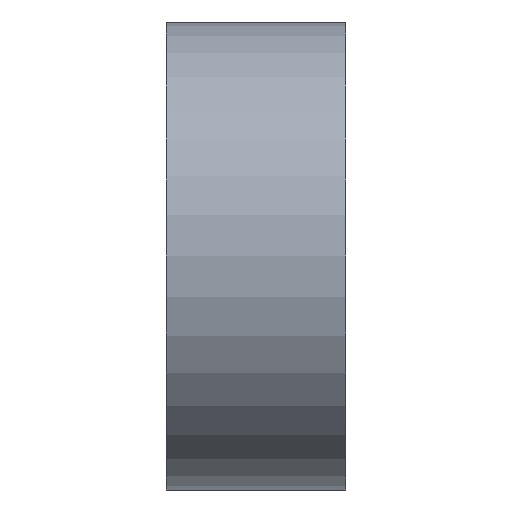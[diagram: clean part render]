
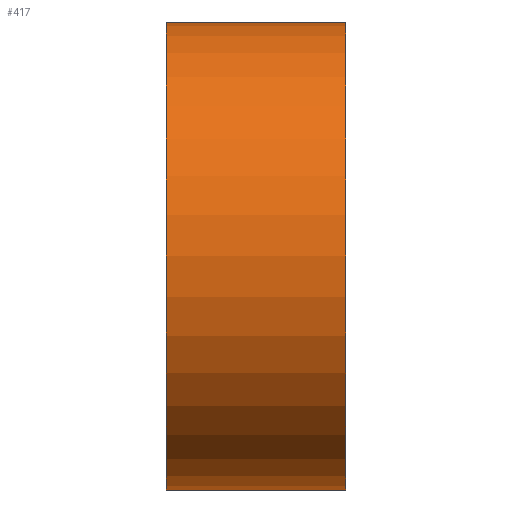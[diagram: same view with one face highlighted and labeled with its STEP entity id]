
A CAD part, left-side view. The second image highlights one B-rep face of the part: STEP entity #417.
In plain terms, the highlighted cylindrical face has radius 11.43 mm (diameter 22.86 mm), a partial arc.
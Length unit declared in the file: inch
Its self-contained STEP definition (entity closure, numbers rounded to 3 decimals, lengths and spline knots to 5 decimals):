
#3 = EDGE_CURVE ( 'NONE', #361, #332, #316, .T. ) ;
#10 = EDGE_CURVE ( 'NONE', #322, #333, #339, .T. ) ;
#14 = AXIS2_PLACEMENT_3D ( 'NONE', #111, #108, #92 ) ;
#19 = AXIS2_PLACEMENT_3D ( 'NONE', #102, #105, #106 ) ;
#25 = EDGE_CURVE ( 'NONE', #333, #332, #368, .T. ) ;
#31 = AXIS2_PLACEMENT_3D ( 'NONE', #176, #155, #156 ) ;
#42 = EDGE_CURVE ( 'NONE', #322, #361, #355, .T. ) ;
#77 = DIRECTION ( 'NONE',  ( 0., -1., 0. ) ) ;
#90 = CARTESIAN_POINT ( 'NONE',  ( 0., 0.345, 0.45 ) ) ;
#92 = DIRECTION ( 'NONE',  ( 0., 0., -1. ) ) ;
#94 = DIRECTION ( 'NONE',  ( 0., -1., 0. ) ) ;
#102 = CARTESIAN_POINT ( 'NONE',  ( 0., 0.345, 0. ) ) ;
#105 = DIRECTION ( 'NONE',  ( 0., 1., 0. ) ) ;
#106 = DIRECTION ( 'NONE',  ( 0., 0., -1. ) ) ;
#108 = DIRECTION ( 'NONE',  ( 0., 1., 0. ) ) ;
#111 = CARTESIAN_POINT ( 'NONE',  ( 0., 0., 0. ) ) ;
#121 = CARTESIAN_POINT ( 'NONE',  ( 0., 0.345, -0.45 ) ) ;
#133 = CARTESIAN_POINT ( 'NONE',  ( 0., 0.345, -0.45 ) ) ;
#138 = CARTESIAN_POINT ( 'NONE',  ( 0., 0., -0.45 ) ) ;
#148 = CARTESIAN_POINT ( 'NONE',  ( 0., 0., 0.45 ) ) ;
#155 = DIRECTION ( 'NONE',  ( 0., -1., 0. ) ) ;
#156 = DIRECTION ( 'NONE',  ( 0., 0., -1. ) ) ;
#176 = CARTESIAN_POINT ( 'NONE',  ( 0., 0.345, 0. ) ) ;
#180 = CARTESIAN_POINT ( 'NONE',  ( 0., 0.345, 0.45 ) ) ;
#242 = EDGE_LOOP ( 'NONE', ( #288, #279, #256, #275 ) ) ;
#256 = ORIENTED_EDGE ( 'NONE', *, *, #10, .T. ) ;
#275 = ORIENTED_EDGE ( 'NONE', *, *, #25, .T. ) ;
#279 = ORIENTED_EDGE ( 'NONE', *, *, #42, .F. ) ;
#288 = ORIENTED_EDGE ( 'NONE', *, *, #3, .F. ) ;
#316 = LINE ( 'NONE', #90, #324 ) ;
#320 = VECTOR ( 'NONE', #94, 39.37008 ) ;
#322 = VERTEX_POINT ( 'NONE', #133 ) ;
#324 = VECTOR ( 'NONE', #77, 39.37008 ) ;
#332 = VERTEX_POINT ( 'NONE', #148 ) ;
#333 = VERTEX_POINT ( 'NONE', #138 ) ;
#339 = LINE ( 'NONE', #121, #320 ) ;
#355 = CIRCLE ( 'NONE', #19, 0.45 ) ;
#361 = VERTEX_POINT ( 'NONE', #180 ) ;
#368 = CIRCLE ( 'NONE', #14, 0.45 ) ;
#375 = FACE_OUTER_BOUND ( 'NONE', #242, .T. ) ;
#384 = CYLINDRICAL_SURFACE ( 'NONE', #31, 0.45 ) ;
#417 = ADVANCED_FACE ( 'NONE', ( #375 ), #384, .T. ) ;
